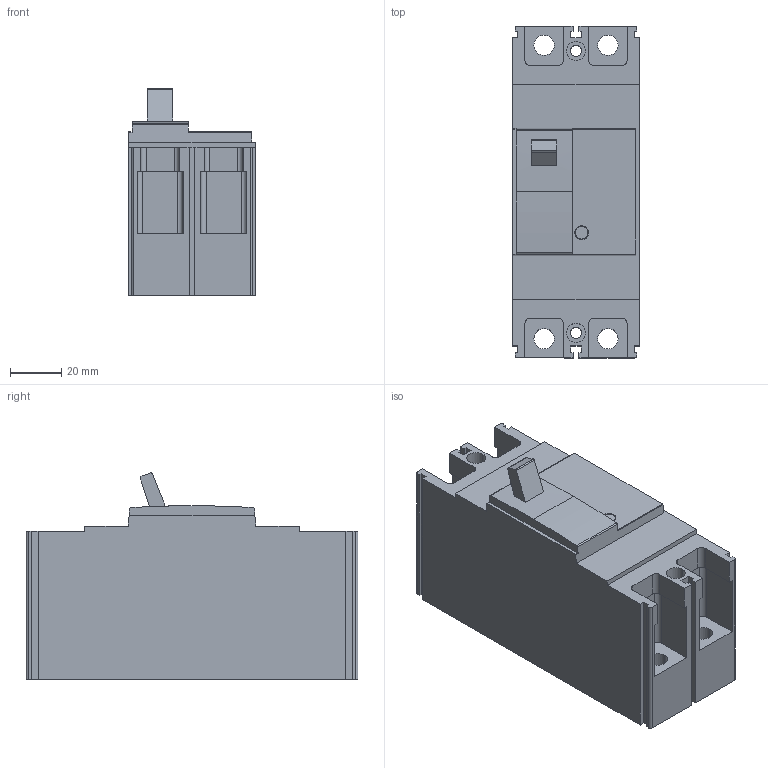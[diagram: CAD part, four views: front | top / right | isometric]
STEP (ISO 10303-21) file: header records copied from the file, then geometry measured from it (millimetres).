
FILE_DESCRIPTION (( 'STEP AP203' ), '1' );
FILE_NAME ('SMART 100AF 2P (60A 檜鼻).STEP', '2018-01-04T00:52:39', ( '' ), ( '' ), 'SwSTEP 2.0', 'SolidWorks 2015', '' );
FILE_SCHEMA (( 'CONFIG_CONTROL_DESIGN' ));
Length unit declared in the file: millimetre
Products named in the file (1): SMART 100AF 2P (60A 檜鼻)
Bounding box: 49.6 x 130 x 80.91 mm (x, y, z)
Volume: 349111.6 mm3; surface area: 45989.3 mm2
Topology: 1 solids, 1 shells, 141 faces, 404 edges, 270 vertices
Faces by surface type: plane 90, cylinder 51
Entity records: 4719 total; most frequent: CARTESIAN_POINT 816, ORIENTED_EDGE 808, DIRECTION 792, EDGE_CURVE 404, LINE 300, VECTOR 300, VERTEX_POINT 270, AXIS2_PLACEMENT_3D 246
